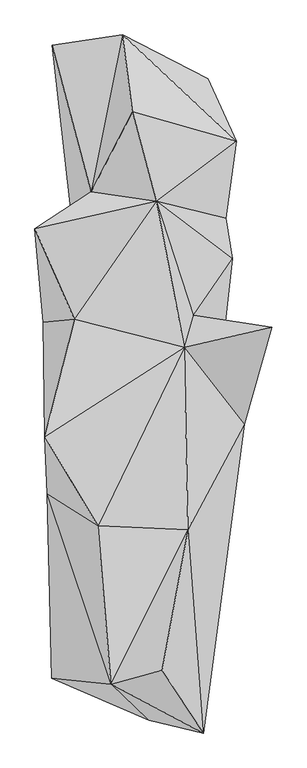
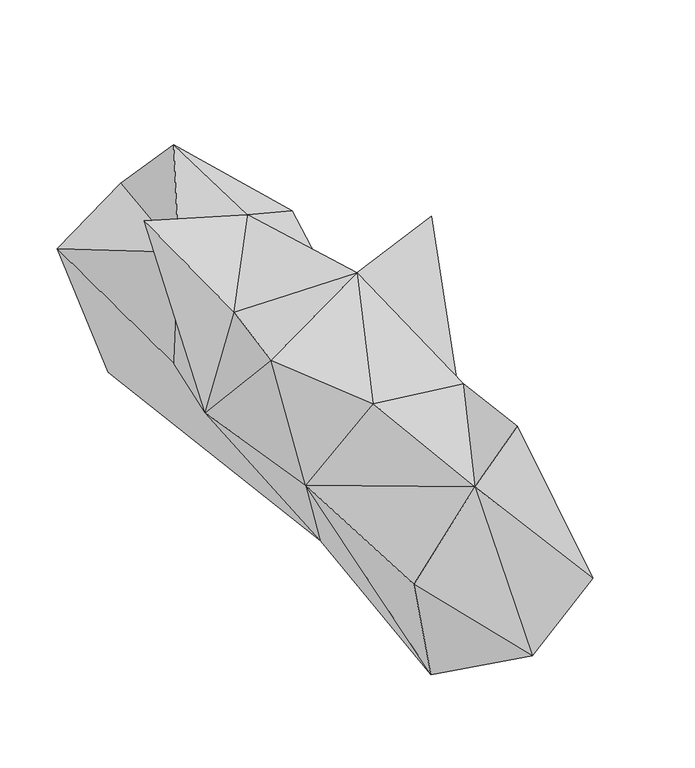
"""IFC4 building model written with IfcOpenShell, lengths in millimetres: geographic element geometry, Enscape AssetDefinition - Potted Plant 250 Snake Plant : Enscape AssetDefinition - Potted Plant 250 Snake Plant 3."""

from ifc_helpers import new_model, si_unit, origin, place, context, project, spatial, triangles, source, transform, mapped, element, save


def geographic_element_8d5893b8(model_context):
    return source(origin(), model_context, "Body", "Tessellation", [
        triangles([(-24.8034415, 897.687648, 725.5778046), (-56.3587056, 1144.9345476, 453.2323279), (217.7233565, 1003.6546537, 93.3487716), (45.5340847, 879.279978, 0.0), (-157.4480567, 640.95172, 554.473859), (275.735277, 555.9034229, 380.9239145), (309.6545365, 804.0714872, 435.8107533), (226.9000856, 596.3693032, 133.1409739), (118.0330934, -115.1925872, 0.0), (52.9927229, 610.3441406, 629.6293734), (171.4599558, 245.8597023, 460.5122615), (296.5254687, 425.9841002, 376.8458204), (245.1833446, -36.7650547, 235.6333643), (423.264099, 206.6763745, 739.874243), (334.8166998, -104.1707491, 340.4646109), (154.1495843, -443.1304009, 644.5916868), (202.829916, -1095.689007, 347.6717291), (225.503641, -818.0688887, 0.0), (27.9576435, -1054.8908432, 115.425549), (70.8868341, -894.2396027, 800.0000061), (-135.584384, -430.6592145, 670.2104719), (-284.2263648, -919.716754, 391.401727), (-93.5314367, -938.4738213, 675.5579653), (-127.7458635, -116.7041774, 0.0), (-5.4096631, -799.1529648, 0.0), (-217.204511, -901.4798584, 42.7531453), (-298.0582603, -327.9616313, 381.5698053), (141.8292517, 142.6432918, 679.8452036), (-305.9563248, -145.0933239, 708.0596151), (-210.8603851, 231.6955778, 613.1555969), (-311.3606824, 223.5076328, 304.1627933), (-219.958994, 559.3421665, 239.8372138), (-338.3057673, 522.5810746, 798.1574587), (-232.4222594, 910.7703524, 0.0), (-282.9675754, 1112.3904585, 324.6869765)], [[4, 9, 24], [34, 4, 24], [4, 34, 35], [35, 34, 32], [24, 32, 34], [5, 35, 32], [5, 33, 10], [28, 10, 30], [33, 30, 10], [31, 33, 5], [24, 31, 32], [31, 5, 32], [30, 33, 31], [29, 30, 31], [28, 30, 29], [28, 29, 21], [27, 21, 29], [27, 29, 31], [27, 31, 24], [27, 26, 22], [27, 24, 26], [24, 25, 26], [24, 9, 25], [22, 26, 19], [26, 25, 19], [21, 27, 23], [22, 19, 23], [27, 22, 23], [16, 23, 20], [28, 21, 16], [16, 21, 23], [17, 16, 20], [17, 23, 19], [20, 23, 17], [18, 25, 9], [19, 25, 18], [17, 19, 18], [18, 15, 17], [15, 28, 16], [15, 16, 17], [28, 15, 14], [9, 15, 18], [15, 9, 13], [15, 13, 11], [14, 15, 11], [10, 28, 11], [11, 28, 14], [12, 11, 13], [12, 13, 9], [12, 10, 11], [6, 10, 12], [4, 8, 9], [6, 12, 8], [8, 12, 9], [8, 4, 3], [7, 10, 6], [7, 6, 8], [8, 3, 7], [1, 10, 7], [5, 10, 1], [2, 7, 3], [4, 35, 2], [5, 2, 35], [5, 1, 2], [2, 3, 4], [2, 1, 7]]),
    ])


if __name__ == "__main__":
    model = new_model("IFC4")
    model_context = context("Model", 3, world=origin())
    ifc_project = project(units=[si_unit("LENGTHUNIT", "METRE", prefix="MILLI")], contexts=[model_context])
    site = spatial("IfcSite", under=ifc_project)
    building = spatial("IfcBuilding", under=site)
    placement = place(None, origin())
    geographic_element_shape = geographic_element_8d5893b8(model_context)
    element("IfcGeographicElement", 1, ObjectType="Enscape AssetDefinition - Potted Plant 250 Snake Plant : Enscape AssetDefinition - Potted Plant 250 Snake Plant 3", at=placement, inside=building, context=model_context, shape_type="MappedRepresentation", body=[
        mapped(geographic_element_shape, transform((0.0, 0.0, 0.0), x_axis=(1.0, 0.0, 0.0), y_axis=(0.0, 1.0, 0.0), z_axis=(0.0, 0.0, 1.0))),
    ])
    save(model, "model.ifc")
